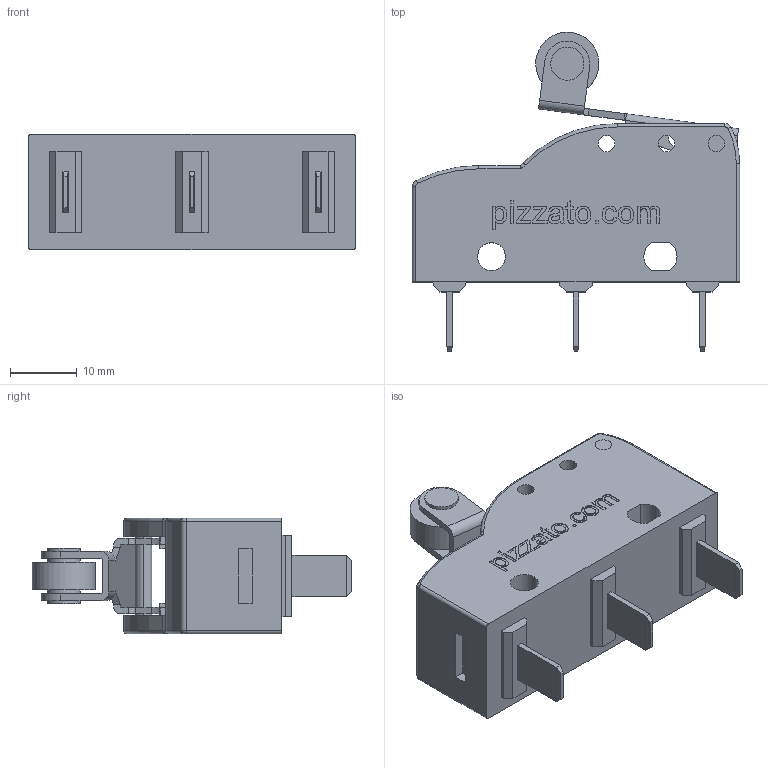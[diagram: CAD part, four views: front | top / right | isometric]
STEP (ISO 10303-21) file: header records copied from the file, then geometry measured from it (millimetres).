
FILE_DESCRIPTION (( 'STEP AP203' ), '1' );
FILE_NAME ('Pizzato_MK_HxxF59.STEP', '2009-02-18T16:18:40', ( 'mario' ), ( '' ), 'SwSTEP 2.0', 'SolidWorks 2009', '' );
FILE_SCHEMA (( 'CONFIG_CONTROL_DESIGN' ));
Length unit declared in the file: millimetre
Products named in the file (4): Pizzato_MK_HxxF59; Pizzato_Custodia_MK_MKH_Leva; Pizzato_Leva_MK59_MK59; Pizzato_Perno Leva
Assembly tree (3 placements, depth 2):
  Pizzato_MK_HxxF59
    Pizzato_Custodia_MK_MKH_Leva
    Pizzato_Perno Leva
    Pizzato_Leva_MK59_MK59
Bounding box: 49.2 x 48.06 x 17.4 mm (x, y, z)
Volume: 16406.8 mm3; surface area: 7294.4 mm2
Topology: 3 solids, 3 shells, 482 faces, 1268 edges, 834 vertices
Faces by surface type: plane 306, cylinder 97, bspline 69, torus 10
Entity records: 18582 total; most frequent: CARTESIAN_POINT 6489, ORIENTED_EDGE 2536, DIRECTION 2172, EDGE_CURVE 1268, VECTOR 922, LINE 922, VERTEX_POINT 834, AXIS2_PLACEMENT_3D 625
